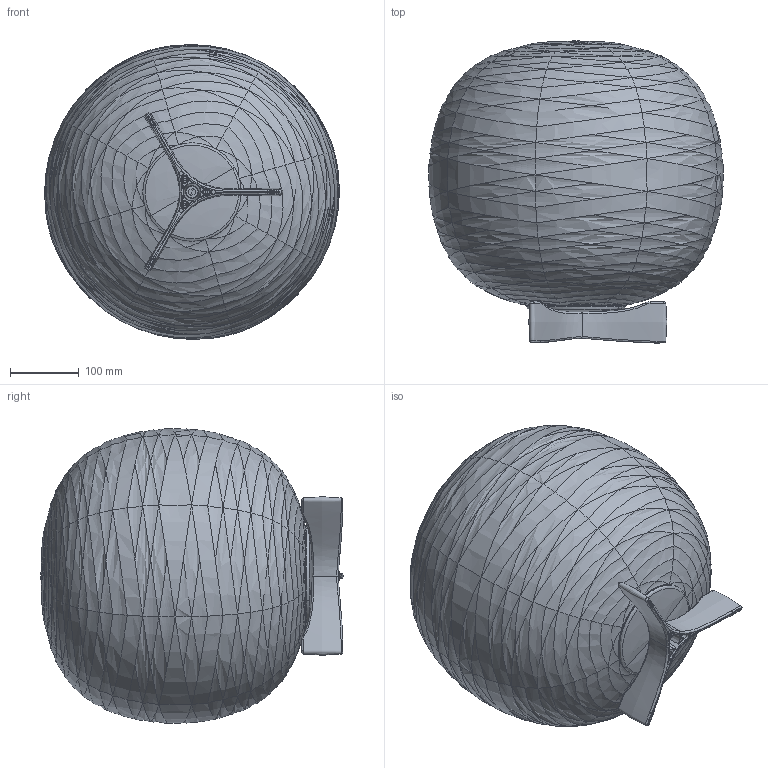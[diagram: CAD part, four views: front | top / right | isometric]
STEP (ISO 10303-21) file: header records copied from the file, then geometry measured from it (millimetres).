
FILE_DESCRIPTION (( 'STEP AP214' ), '1' );
FILE_NAME ('274_STD_T_PL_3D.STEP', '2021-05-20T08:00:04', ( '' ), ( '' ), 'SwSTEP 2.0', 'SolidWorks 2021', '' );
FILE_SCHEMA (( 'AUTOMOTIVE_DESIGN' ));
Length unit declared in the file: millimetre
Products named in the file (5): 274_STD_T_PL_3D; 274M21; 274V01; 274M20; 274P03
Assembly tree (4 placements, depth 2):
  274_STD_T_PL_3D
    274M20
    274M21
    274V01
    274P03
Bounding box: 428.66 x 439.37 x 428.66 mm (x, y, z)
Volume: 2767476.4 mm3; surface area: 1205726.7 mm2
Topology: 3 solids, 4 shells, 1414 faces, 3343 edges, 1771 vertices
Faces by surface type: bspline 738, plane 240, cylinder 207, cone 100, torus 93, sphere 36
Entity records: 118746 total; most frequent: CARTESIAN_POINT 92769, ORIENTED_EDGE 6258, DIRECTION 3688, EDGE_CURVE 3129, VERTEX_POINT 1761, B_SPLINE_CURVE_WITH_KNOTS 1549, AXIS2_PLACEMENT_3D 1498, EDGE_LOOP 1480
